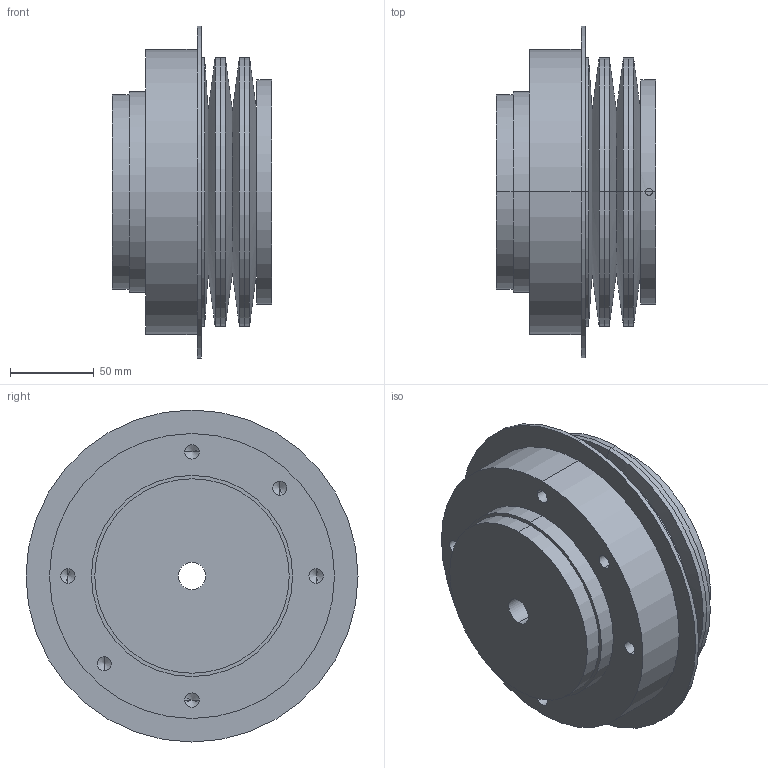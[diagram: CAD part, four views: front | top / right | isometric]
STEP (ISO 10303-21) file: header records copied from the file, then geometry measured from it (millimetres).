
FILE_DESCRIPTION (( 'STEP AP203' ), '1' );
FILE_NAME ('ST11F-25A.STEP', '2009-09-30T17:42:18', ( 'USER' ), ( 'HOME' ), 'SwSTEP 2.0', 'SolidWorks 2007', '' );
FILE_SCHEMA (( 'CONFIG_CONTROL_DESIGN' ));
Length unit declared in the file: millimetre
Products named in the file (1): ST11F-25A
Bounding box: 95 x 198 x 198 mm (x, y, z)
Volume: 1517275.2 mm3; surface area: 270135.4 mm2
Topology: 7 solids, 7 shells, 91 faces, 204 edges, 114 vertices
Faces by surface type: cylinder 52, cone 30, plane 9
Entity records: 2739 total; most frequent: CARTESIAN_POINT 634, DIRECTION 460, ORIENTED_EDGE 384, EDGE_CURVE 192, AXIS2_PLACEMENT_3D 188, VERTEX_POINT 114, EDGE_LOOP 108, CIRCLE 96
